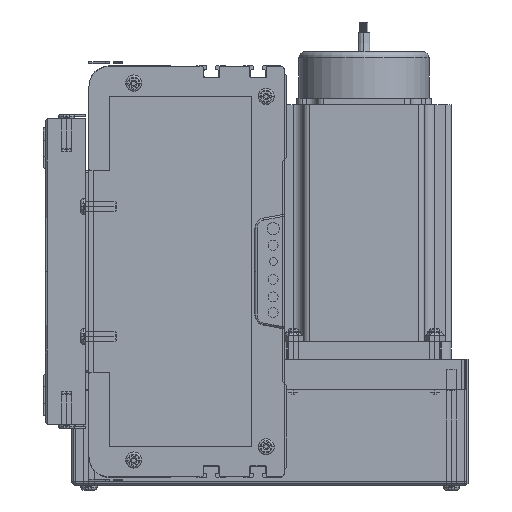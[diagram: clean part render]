
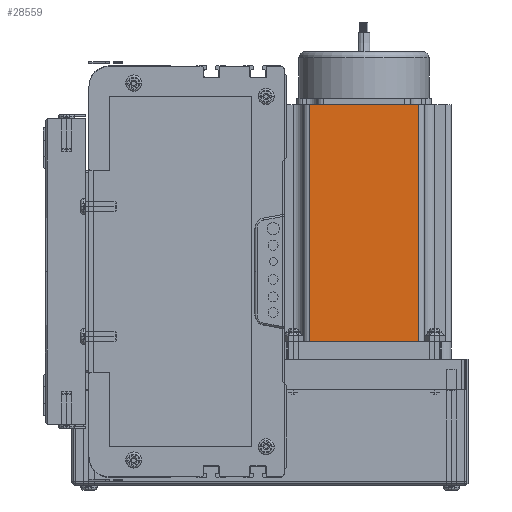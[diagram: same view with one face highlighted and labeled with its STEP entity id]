
A CAD part, left-side view. The second image highlights one B-rep face of the part: STEP entity #28559.
In plain terms, the highlighted planar face has unit normal (-1, 0, 0) as drawn and (0, -1, 0) by its records, which use the part's own axes.
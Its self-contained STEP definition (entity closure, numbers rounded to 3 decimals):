
#28014 = ORIENTED_EDGE ( 'NONE', *, *, #28463, .T. ) ;
#28015 = VERTEX_POINT ( 'NONE', #79714 ) ;
#28031 = ORIENTED_EDGE ( 'NONE', *, *, #28033, .T. ) ;
#28033 = EDGE_CURVE ( 'NONE', #28100, #28015, #79756, .T. ) ;
#28083 = ORIENTED_EDGE ( 'NONE', *, *, #28515, .T. ) ;
#28100 = VERTEX_POINT ( 'NONE', #79828 ) ;
#28463 = EDGE_CURVE ( 'NONE', #28015, #28473, #80323, .T. ) ;
#28473 = VERTEX_POINT ( 'NONE', #80461 ) ;
#28475 = ORIENTED_EDGE ( 'NONE', *, *, #28529, .F. ) ;
#28515 = EDGE_CURVE ( 'NONE', #28473, #28556, #80537, .T. ) ;
#28529 = EDGE_CURVE ( 'NONE', #28100, #28556, #80604, .T. ) ;
#28556 = VERTEX_POINT ( 'NONE', #80721 ) ;
#28559 = ADVANCED_FACE ( 'NONE', ( #80717 ), #80724, .F. ) ;
#28561 = EDGE_LOOP ( 'NONE', ( #28014, #28083, #28475, #28031 ) ) ;
#79714 = CARTESIAN_POINT ( 'NONE',  ( 16.16, 0., 0. ) ) ;
#79753 = DIRECTION ( 'NONE',  ( 0., 0., -1. ) ) ;
#79754 = VECTOR ( 'NONE', #79753, 1000. ) ;
#79755 = CARTESIAN_POINT ( 'NONE',  ( 16.16, 0., 116.5 ) ) ;
#79756 = LINE ( 'NONE', #79755, #79754 ) ;
#79828 = CARTESIAN_POINT ( 'NONE',  ( 16.16, 0., 116.5 ) ) ;
#80226 = DIRECTION ( 'NONE',  ( 0., 0., 1. ) ) ;
#80323 = LINE ( 'NONE', #80365, #80364 ) ;
#80364 = VECTOR ( 'NONE', #80411, 1000. ) ;
#80365 = CARTESIAN_POINT ( 'NONE',  ( 0., 0., 0. ) ) ;
#80411 = DIRECTION ( 'NONE',  ( 1., 0., 0. ) ) ;
#80461 = CARTESIAN_POINT ( 'NONE',  ( 69.74, 0., 0. ) ) ;
#80534 = DIRECTION ( 'NONE',  ( 0., 0., 1. ) ) ;
#80535 = VECTOR ( 'NONE', #80534, 1000. ) ;
#80536 = CARTESIAN_POINT ( 'NONE',  ( 69.74, 0., 116.5 ) ) ;
#80537 = LINE ( 'NONE', #80536, #80535 ) ;
#80601 = DIRECTION ( 'NONE',  ( 1., 0., 0. ) ) ;
#80602 = VECTOR ( 'NONE', #80601, 1000. ) ;
#80603 = CARTESIAN_POINT ( 'NONE',  ( 0., 0., 116.5 ) ) ;
#80604 = LINE ( 'NONE', #80603, #80602 ) ;
#80717 = FACE_OUTER_BOUND ( 'NONE', #28561, .T. ) ;
#80718 = DIRECTION ( 'NONE',  ( 0., 1., 0. ) ) ;
#80721 = CARTESIAN_POINT ( 'NONE',  ( 69.74, 0., 116.5 ) ) ;
#80724 = PLANE ( 'NONE',  #80729 ) ;
#80729 = AXIS2_PLACEMENT_3D ( 'NONE', #80735, #80718, #80226 ) ;
#80735 = CARTESIAN_POINT ( 'NONE',  ( 0., 0., 116.5 ) ) ;
